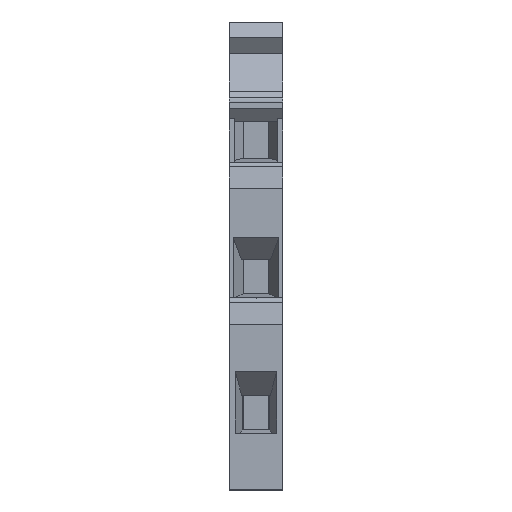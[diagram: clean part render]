
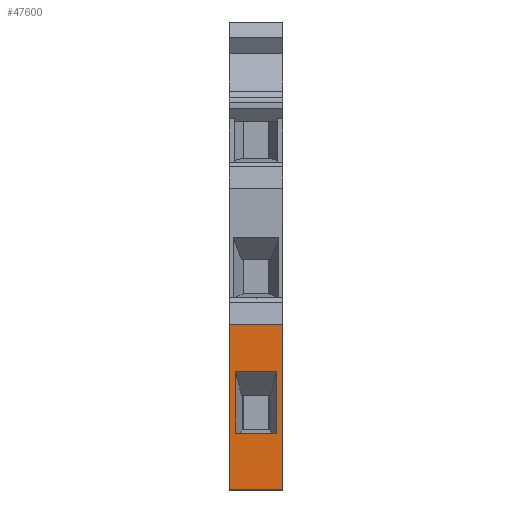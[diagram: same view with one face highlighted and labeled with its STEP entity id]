
A CAD part, front view. The second image highlights one B-rep face of the part: STEP entity #47600.
In plain terms, the highlighted planar face has unit normal (0, -1, 0) as drawn and (1, 0, 0) by its records, which use the part's own axes.
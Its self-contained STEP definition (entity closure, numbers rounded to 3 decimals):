
#100=CARTESIAN_POINT('',(1265.75,-17.245,-0.025))
;
#110=VERTEX_POINT('',#100);
#6340=CARTESIAN_POINT('',(1265.75,-35.976,-0.025)
);
#6350=VERTEX_POINT('',#6340);
#6380=CARTESIAN_POINT('',(1265.75,0.,
-0.025));
#6390=DIRECTION('',(0.,1.,0.));
#6400=VECTOR('',#6390,1.);
#6410=LINE('',#6380,#6400);
#6420=EDGE_CURVE('',#6350,#110,#6410,.T.);
#8330=CARTESIAN_POINT('',(1265.75,-35.976,6.08));
#8340=VERTEX_POINT('',#8330);
#8370=CARTESIAN_POINT('',(1265.75,-35.976,0.003)
);
#8380=DIRECTION('',(0.,0.,-1.));
#8390=VECTOR('',#8380,1.);
#8400=LINE('',#8370,#8390);
#8410=EDGE_CURVE('',#8340,#6350,#8400,.T.);
#39860=CARTESIAN_POINT('',(1265.75,-17.245,6.08));
#39870=VERTEX_POINT('',#39860);
#39900=CARTESIAN_POINT('',(1265.75,0.,
6.08));
#39910=DIRECTION('',(0.,1.,0.));
#39920=VECTOR('',#39910,1.);
#39930=LINE('',#39900,#39920);
#39940=EDGE_CURVE('',#8340,#39870,#39930,.T.);
#47100=CARTESIAN_POINT('',(1265.75,-34.476,-0.025
));
#47110=DIRECTION('',(-1.,0.,0.));
#47120=DIRECTION('',(0.,-1.,0.));
#47130=AXIS2_PLACEMENT_3D('',#47100,#47110,#47120);
#47140=PLANE('',#47130);
#47150=CARTESIAN_POINT('',(1265.75,0.,
0.675));
#47160=DIRECTION('',(0.,1.,0.));
#47170=VECTOR('',#47160,1.);
#47180=LINE('',#47150,#47170);
#47190=CARTESIAN_POINT('',(1265.75,-29.526,0.675))
;
#47200=VERTEX_POINT('',#47190);
#47210=CARTESIAN_POINT('',(1265.75,-22.526,0.675))
;
#47220=VERTEX_POINT('',#47210);
#47230=EDGE_CURVE('',#47200,#47220,#47180,.T.);
#47240=ORIENTED_EDGE('',*,*,#47230,.F.);
#47250=CARTESIAN_POINT('',(1265.75,-22.526,0.003
));
#47260=DIRECTION('',(0.,0.,-1.));
#47270=VECTOR('',#47260,1.);
#47280=LINE('',#47250,#47270);
#47290=CARTESIAN_POINT('',(1265.75,-22.526,5.38));
#47300=VERTEX_POINT('',#47290);
#47310=EDGE_CURVE('',#47300,#47220,#47280,.T.);
#47320=ORIENTED_EDGE('',*,*,#47310,.T.);
#47330=CARTESIAN_POINT('',(1265.75,0.,
5.38));
#47340=DIRECTION('',(0.,-1.,0.));
#47350=VECTOR('',#47340,1.);
#47360=LINE('',#47330,#47350);
#47370=CARTESIAN_POINT('',(1265.75,-29.526,5.38));
#47380=VERTEX_POINT('',#47370);
#47390=EDGE_CURVE('',#47300,#47380,#47360,.T.);
#47400=ORIENTED_EDGE('',*,*,#47390,.F.);
#47410=CARTESIAN_POINT('',(1265.75,-29.526,0.003
));
#47420=DIRECTION('',(0.,0.,1.));
#47430=VECTOR('',#47420,1.);
#47440=LINE('',#47410,#47430);
#47450=EDGE_CURVE('',#47200,#47380,#47440,.T.);
#47460=ORIENTED_EDGE('',*,*,#47450,.T.);
#47470=EDGE_LOOP('',(#47460,#47400,#47320,#47240));
#47480=FACE_BOUND('',#47470,.T.);
#47490=ORIENTED_EDGE('',*,*,#6420,.T.);
#47500=ORIENTED_EDGE('',*,*,#8410,.T.);
#47510=ORIENTED_EDGE('',*,*,#39940,.F.);
#47520=CARTESIAN_POINT('',(1265.75,-17.245,0.003
));
#47530=DIRECTION('',(0.,0.,-1.));
#47540=VECTOR('',#47530,1.);
#47550=LINE('',#47520,#47540);
#47560=EDGE_CURVE('',#39870,#110,#47550,.T.);
#47570=ORIENTED_EDGE('',*,*,#47560,.F.);
#47580=EDGE_LOOP('',(#47570,#47510,#47500,#47490));
#47590=FACE_OUTER_BOUND('',#47580,.T.);
#47600=ADVANCED_FACE('',(#47480,#47590),#47140,.F.);
